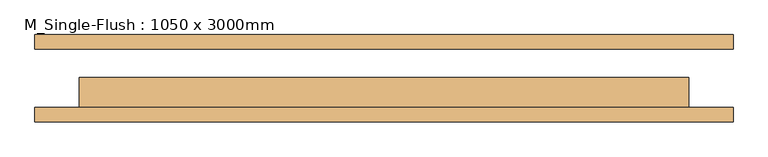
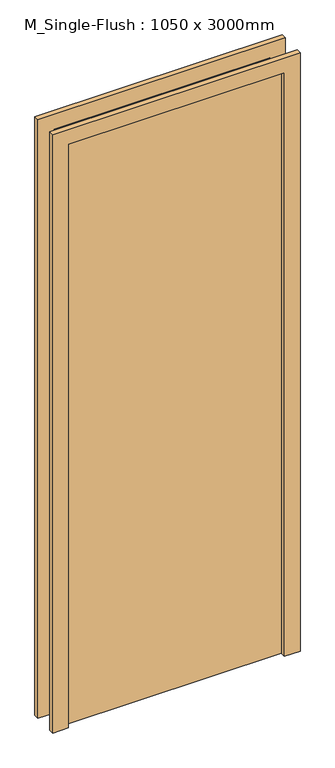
"""IFC4 building model written with IfcOpenShell, lengths in millimetres: door geometry, M_Single-Flush : 1050 x 3000mm."""

from ifc_helpers import new_model, si_unit, frame, origin, origin_with_axes, place, context, project, spatial, polyline, outline, extrude, source, transform, mapped, element, save


def m_single_flush_1050_x_3000mm_fa7f7131(model_context):
    return source(origin(), model_context, "Body", "SweptSolid", [
        extrude(outline(polyline([(3076.0, -601.0), (0.0, -601.0), (0.0, -525.0), (3000.0, -525.0), (3000.0, 525.0), (0.0, 525.0), (0.0, 601.0), (3076.0, 601.0), (3076.0, -601.0)])), frame((0.0, -75.0, 0.0), z_axis=(0.0, 1.0, 0.0), x_axis=(0.0, 0.0, 1.0)), (0.0, 0.0, 1.0), 25.0),
        extrude(outline(polyline([(3076.0, 601.0), (3076.0, -601.0), (0.0, -601.0), (0.0, -525.0), (3000.0, -525.0), (3000.0, 525.0), (0.0, 525.0), (0.0, 601.0), (3076.0, 601.0)])), frame((0.0, 50.0, 0.0), z_axis=(0.0, 1.0, 0.0), x_axis=(0.0, 0.0, 1.0)), (0.0, 0.0, 1.0), 25.0),
        extrude(outline(polyline([(525.0, 1.0), (525.0, -50.0), (-525.0, -50.0), (-525.0, 1.0), (525.0, 1.0)])), origin_with_axes(), (0.0, 0.0, 1.0), 3000.0),
    ])


if __name__ == "__main__":
    model = new_model("IFC4")
    model_context = context("Model", 3, world=origin())
    ifc_project = project(units=[si_unit("LENGTHUNIT", "METRE", prefix="MILLI")], contexts=[model_context])
    site = spatial("IfcSite", under=ifc_project)
    building = spatial("IfcBuilding", under=site)
    placement = place(None, origin())
    m_single_flush_1050_x_3000mm_shape = m_single_flush_1050_x_3000mm_fa7f7131(model_context)
    element("IfcDoor", 1, ObjectType="M_Single-Flush : 1050 x 3000mm", at=placement, inside=building, context=model_context, shape_type="MappedRepresentation", body=[
        mapped(m_single_flush_1050_x_3000mm_shape, transform((0.0, 0.0, 0.0), x_axis=(1.0, 0.0, 0.0), y_axis=(0.0, 1.0, 0.0), z_axis=(0.0, 0.0, 1.0))),
    ])
    save(model, "model.ifc")
